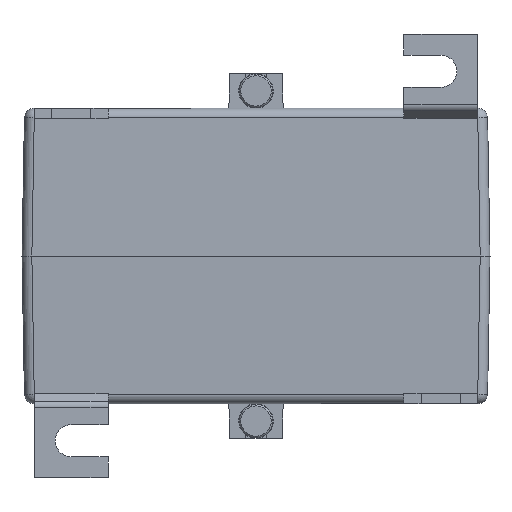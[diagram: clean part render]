
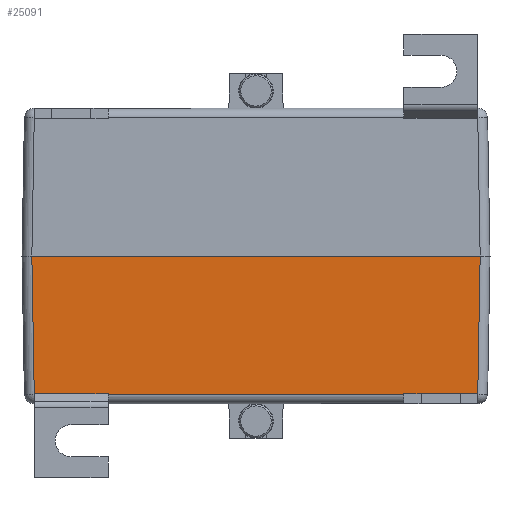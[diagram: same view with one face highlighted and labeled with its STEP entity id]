
A CAD part, front view. The second image highlights one B-rep face of the part: STEP entity #25091.
In plain terms, the highlighted planar face has unit normal (0, -1, -0.018).
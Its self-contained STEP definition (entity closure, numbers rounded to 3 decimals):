
#2508=FACE_OUTER_BOUND('',#3936,.T.);
#3936=EDGE_LOOP('',(#17557,#17558,#17559,#17560,#17561,#17562,#17563,#17564,
#17565,#17566,#17567,#17568));
#5822=LINE('',#34296,#8427);
#5838=LINE('',#34333,#8443);
#5862=LINE('',#34390,#8467);
#5879=LINE('',#34425,#8484);
#5895=LINE('',#34628,#8500);
#6153=LINE('',#36520,#8758);
#6154=LINE('',#36522,#8759);
#6155=LINE('',#36524,#8760);
#6156=LINE('',#36526,#8761);
#6157=LINE('',#36528,#8762);
#6158=LINE('',#36530,#8763);
#6159=LINE('',#36531,#8764);
#8427=VECTOR('',#28348,1000.);
#8443=VECTOR('',#28374,1000.);
#8467=VECTOR('',#28418,1000.);
#8484=VECTOR('',#28449,1000.);
#8500=VECTOR('',#28549,1000.);
#8758=VECTOR('',#28871,1000.);
#8759=VECTOR('',#28872,1000.);
#8760=VECTOR('',#28873,1000.);
#8761=VECTOR('',#28874,1000.);
#8762=VECTOR('',#28875,1000.);
#8763=VECTOR('',#28876,1000.);
#8764=VECTOR('',#28877,1000.);
#11032=VERTEX_POINT('',#34293);
#11033=VERTEX_POINT('',#34295);
#11049=VERTEX_POINT('',#34331);
#11071=VERTEX_POINT('',#34387);
#11072=VERTEX_POINT('',#34389);
#11132=VERTEX_POINT('',#34626);
#11470=VERTEX_POINT('',#36519);
#11471=VERTEX_POINT('',#36521);
#11472=VERTEX_POINT('',#36523);
#11473=VERTEX_POINT('',#36525);
#11474=VERTEX_POINT('',#36527);
#11475=VERTEX_POINT('',#36529);
#13359=EDGE_CURVE('',#11033,#11032,#5822,.T.);
#13377=EDGE_CURVE('',#11032,#11049,#5838,.T.);
#13403=EDGE_CURVE('',#11072,#11071,#5862,.T.);
#13422=EDGE_CURVE('',#11049,#11072,#5879,.T.);
#13475=EDGE_CURVE('',#11071,#11132,#5895,.T.);
#13833=EDGE_CURVE('',#11132,#11470,#6153,.T.);
#13834=EDGE_CURVE('',#11470,#11471,#6154,.T.);
#13835=EDGE_CURVE('',#11471,#11472,#6155,.T.);
#13836=EDGE_CURVE('',#11472,#11473,#6156,.T.);
#13837=EDGE_CURVE('',#11473,#11474,#6157,.T.);
#13838=EDGE_CURVE('',#11475,#11474,#6158,.T.);
#13839=EDGE_CURVE('',#11475,#11033,#6159,.T.);
#17557=ORIENTED_EDGE('',*,*,#13359,.T.);
#17558=ORIENTED_EDGE('',*,*,#13377,.T.);
#17559=ORIENTED_EDGE('',*,*,#13422,.T.);
#17560=ORIENTED_EDGE('',*,*,#13403,.T.);
#17561=ORIENTED_EDGE('',*,*,#13475,.T.);
#17562=ORIENTED_EDGE('',*,*,#13833,.T.);
#17563=ORIENTED_EDGE('',*,*,#13834,.T.);
#17564=ORIENTED_EDGE('',*,*,#13835,.T.);
#17565=ORIENTED_EDGE('',*,*,#13836,.T.);
#17566=ORIENTED_EDGE('',*,*,#13837,.T.);
#17567=ORIENTED_EDGE('',*,*,#13838,.F.);
#17568=ORIENTED_EDGE('',*,*,#13839,.T.);
#24149=PLANE('',#26607);
#25091=ADVANCED_FACE('',(#2508),#24149,.T.);
#26607=AXIS2_PLACEMENT_3D('',#36518,#28869,#28870);
#28348=DIRECTION('',(1.,0.,0.));
#28374=DIRECTION('',(0.009,-0.017,1.));
#28418=DIRECTION('',(0.009,0.017,-1.));
#28449=DIRECTION('',(1.,0.,0.));
#28549=DIRECTION('',(1.,0.,0.));
#28869=DIRECTION('center_axis',(0.,-1.,
-0.017));
#28870=DIRECTION('ref_axis',(0.,-0.017,1.));
#28871=DIRECTION('',(0.009,-0.017,1.));
#28872=DIRECTION('',(1.,0.,0.));
#28873=DIRECTION('',(0.009,0.017,-1.));
#28874=DIRECTION('',(1.,0.,0.));
#28875=DIRECTION('',(0.017,-0.017,1.));
#28876=DIRECTION('',(1.,0.,0.));
#28877=DIRECTION('',(0.017,0.017,-1.));
#34293=CARTESIAN_POINT('',(-44.983,-49.511,-28.035));
#34295=CARTESIAN_POINT('',(-45.011,-49.511,-28.035));
#34296=CARTESIAN_POINT('',(47.5,-49.511,-28.035));
#34331=CARTESIAN_POINT('',(-44.982,-49.511,-27.988));
#34333=CARTESIAN_POINT('',(-44.731,-50.014,0.805));
#34387=CARTESIAN_POINT('',(-30.017,-49.511,-28.035));
#34389=CARTESIAN_POINT('',(-30.018,-49.511,-27.988));
#34390=CARTESIAN_POINT('',(-30.256,-49.988,-0.678));
#34425=CARTESIAN_POINT('',(47.5,-49.511,-27.988));
#34626=CARTESIAN_POINT('',(30.017,-49.511,-28.035));
#34628=CARTESIAN_POINT('',(47.5,-49.511,-28.035));
#36518=CARTESIAN_POINT('Origin',(47.5,-50.,0.));
#36519=CARTESIAN_POINT('',(30.018,-49.511,-27.988));
#36520=CARTESIAN_POINT('',(30.263,-50.003,0.15));
#36521=CARTESIAN_POINT('',(44.982,-49.511,-27.988));
#36522=CARTESIAN_POINT('',(47.5,-49.511,-27.988));
#36523=CARTESIAN_POINT('',(44.983,-49.511,-28.035));
#36524=CARTESIAN_POINT('',(44.738,-50.,-0.024));
#36525=CARTESIAN_POINT('',(45.011,-49.511,-28.035));
#36526=CARTESIAN_POINT('',(47.5,-49.511,-28.035));
#36527=CARTESIAN_POINT('',(45.5,-50.,0.));
#36528=CARTESIAN_POINT('',(45.501,-50.001,0.035));
#36529=CARTESIAN_POINT('',(-45.5,-50.,0.));
#36530=CARTESIAN_POINT('',(-47.5,-50.,0.));
#36531=CARTESIAN_POINT('',(-45.472,-49.972,-1.622));
